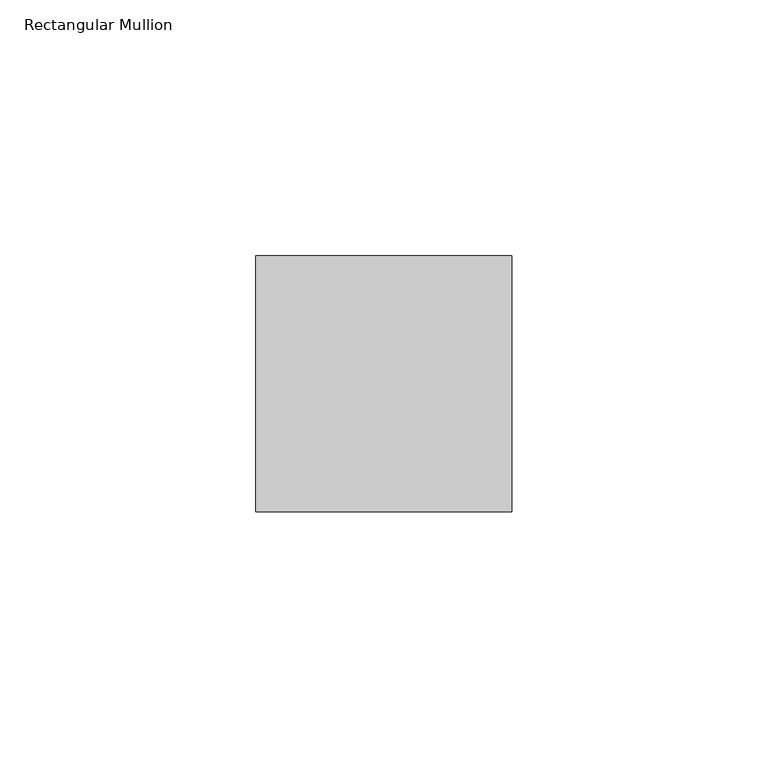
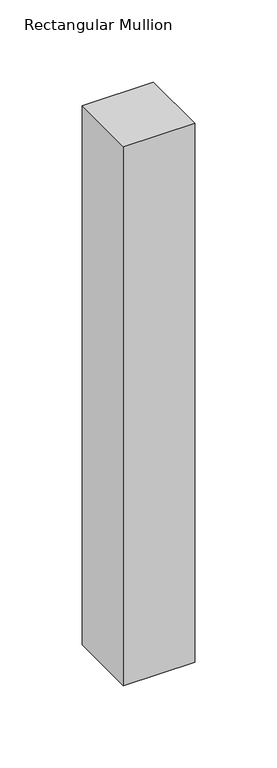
"""IFC4 building model written with IfcOpenShell, lengths in millimetres: member geometry, Rectangular Mullion : RSen_21_CWM_support profile 50x50_gen_duco projects."""

from ifc_helpers import new_model, si_unit, frame, origin, place, context, project, spatial, polyline, outline, extrude, source, transform, mapped, element, save


def rectangular_mullion_3c6e38bc(model_context):
    return source(origin(), model_context, "Body", "SweptSolid", [
        extrude(outline(polyline([(25.0, 1.0), (25.0, -49.0), (-25.0, -49.0), (-25.0, 1.0), (25.0, 1.0)])), frame((0.0, 0.0, -400.0), z_axis=(0.0, 0.0, 1.0), x_axis=(1.0, 0.0, 0.0)), (0.0, 0.0, 1.0), 400.0),
    ])


if __name__ == "__main__":
    model = new_model("IFC4")
    model_context = context("Model", 3, world=origin())
    ifc_project = project(units=[si_unit("LENGTHUNIT", "METRE", prefix="MILLI")], contexts=[model_context])
    site = spatial("IfcSite", under=ifc_project)
    building = spatial("IfcBuilding", under=site)
    placement = place(None, origin())
    rectangular_mullion_shape = rectangular_mullion_3c6e38bc(model_context)
    element("IfcMember", 1, ObjectType="Rectangular Mullion : RSen_21_CWM_support profile 50x50_gen_duco projects", at=placement, inside=building, context=model_context, shape_type="MappedRepresentation", body=[
        mapped(rectangular_mullion_shape, transform((0.0, 0.0, 0.0), x_axis=(1.0, 0.0, 0.0), y_axis=(0.0, 1.0, 0.0), z_axis=(0.0, 0.0, 1.0))),
    ])
    save(model, "model.ifc")
